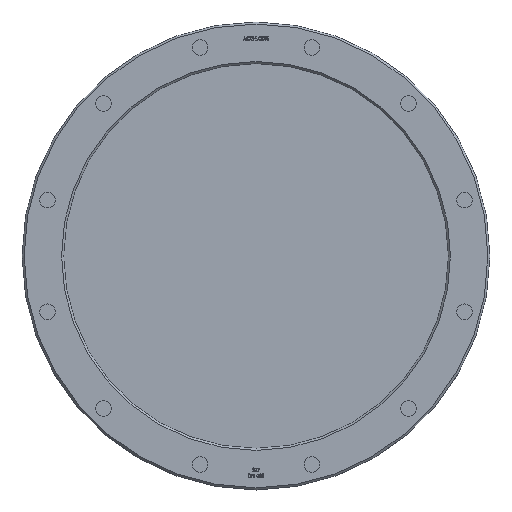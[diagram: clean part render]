
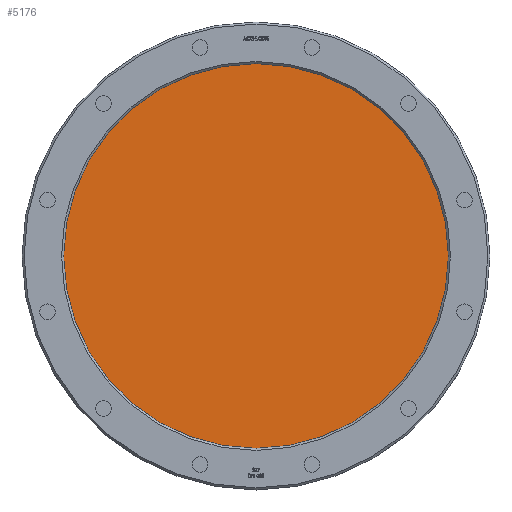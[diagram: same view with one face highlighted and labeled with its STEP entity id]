
A CAD part, top view. The second image highlights one B-rep face of the part: STEP entity #5176.
In plain terms, the highlighted planar face has unit normal (0, 0, 1).
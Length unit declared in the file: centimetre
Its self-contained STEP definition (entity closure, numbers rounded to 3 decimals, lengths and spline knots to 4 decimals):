
#1660=FACE_OUTER_BOUND('',#1950,.T.);
#1950=EDGE_LOOP('',(#3555));
#2296=CIRCLE('',#5469,18.5);
#2329=VERTEX_POINT('',#6592);
#2826=EDGE_CURVE('',#2329,#2329,#2296,.T.);
#3555=ORIENTED_EDGE('',*,*,#2826,.F.);
#5013=PLANE('',#5468);
#5176=ADVANCED_FACE('',(#1660),#5013,.F.);
#5468=AXIS2_PLACEMENT_3D('',#6591,#5684,#5685);
#5469=AXIS2_PLACEMENT_3D('',#6593,#5686,#5687);
#5684=DIRECTION('center_axis',(0.,0.,-1.));
#5685=DIRECTION('ref_axis',(-1.,0.,0.));
#5686=DIRECTION('center_axis',(0.,0.,-1.));
#5687=DIRECTION('ref_axis',(-1.,0.,0.));
#6591=CARTESIAN_POINT('Origin',(0.,0.,
3.15));
#6592=CARTESIAN_POINT('',(18.5,0.,3.15));
#6593=CARTESIAN_POINT('Origin',(0.,0.,
3.15));
